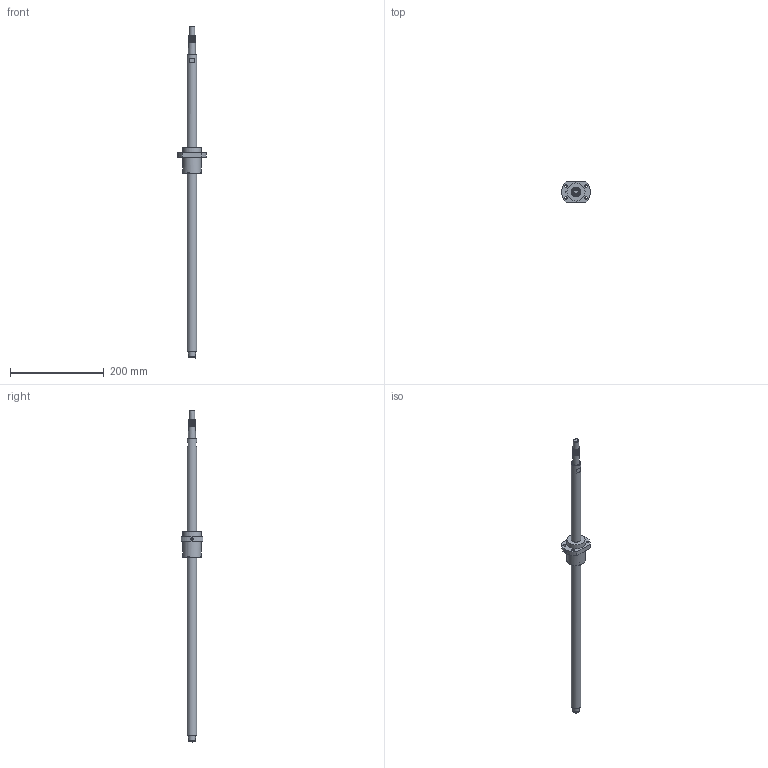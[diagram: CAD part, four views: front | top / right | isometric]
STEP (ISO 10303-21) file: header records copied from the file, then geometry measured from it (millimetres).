
FILE_DESCRIPTION(/* description */ (''),/* implementation_level */ '2;1');
FILE_NAME(/* name */ 'BSG249_asm1.stp',/* time_stamp */ '2017-01-14T09:11:14+08:00',/* author */ (''),/* organization */ (''),/* preprocessor_version */ 'ST-DEVELOPER v15',/* originating_system */ 'SIEMENS PLM Software NX 8.5',/* authorisation */ '');
FILE_SCHEMA (('AUTOMOTIVE_DESIGN { 1 0 10303 214 3 1 1 1 }'));
Length unit declared in the file: millimetre
Products named in the file (3): BSG249; 01; BSG249_asm1
Assembly tree (2 placements, depth 2):
  BSG249_asm1
    01
    BSG249
Bounding box: 62 x 46 x 710 mm (x, y, z)
Volume: 60188.9 mm3; surface area: 60919.8 mm2
Topology: 1 solids, 2 shells, 82 faces, 215 edges, 146 vertices
Faces by surface type: plane 41, cylinder 37, bspline 2, cone 2
Full cylindrical faces by diameter (mm): 4.5 x4, 5 x1, 5.5 x4, 6 x1, 12 x1, 14.3 x1, 15 x17, 20 x2, 39 x2
Entity records: 5011 total; most frequent: CARTESIAN_POINT 3444, DIRECTION 318, ORIENTED_EDGE 268, EDGE_CURVE 134, AXIS2_PLACEMENT_3D 129, EDGE_LOOP 110, VERTEX_POINT 100, FACE_BOUND 73
